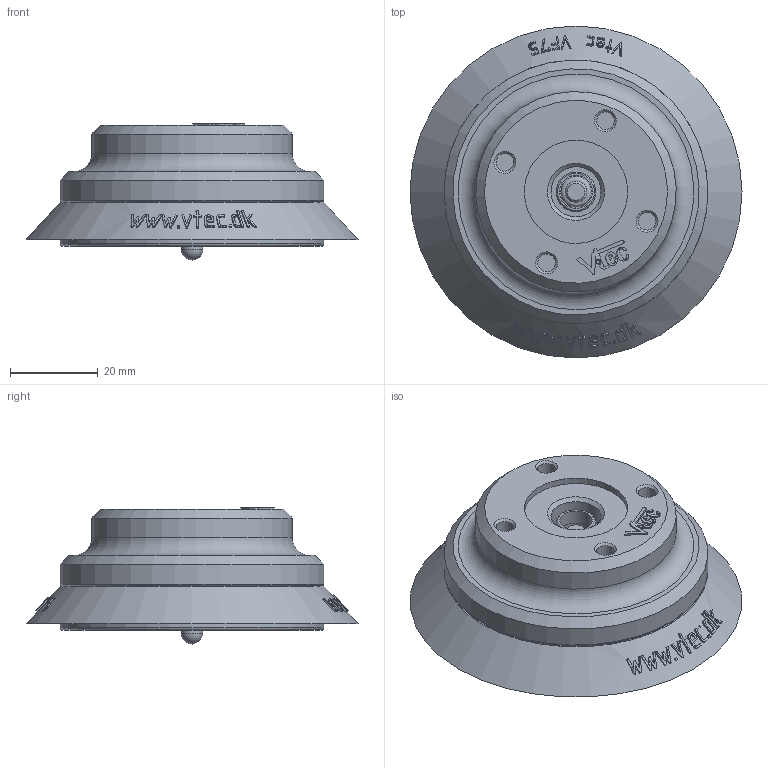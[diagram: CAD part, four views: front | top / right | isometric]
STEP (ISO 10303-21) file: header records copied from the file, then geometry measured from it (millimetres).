
FILE_DESCRIPTION( ( 'Unknown' ), '1' );
FILE_NAME( 'C:/Documents and Settings/owner/官帕 拳搁/MISUMI/PAD/VF/VF75-N-14FA-BV.stp', 'Unknown', ( 'Unknown' ), ( 'Unknown' ), 'XStep 1.0', 'Unknown', ' ' );
FILE_SCHEMA( ( 'automotive_design' ) );
Length unit declared in the file: millimetre
Products named in the file (5): Assem1; 1_0; 2_0; VF75 BV
Bounding box: 75.5 x 75.5 x 30.95 mm (x, y, z)
Volume: 101577 mm3; surface area: 47485.9 mm2
Topology: 8 solids, 8 shells, 748 faces, 1888 edges, 1252 vertices
Faces by surface type: plane 364, cylinder 160, bspline 122, cone 72, extrusion 18, torus 10, sphere 2
Full cylindrical faces by diameter (mm): 0.791 x2, 4 x16, 4.9 x2, 5 x2, 6 x8, 7.5 x2, 9 x2, 10.5 x2, 11 x2, 11.4 x2, 15 x4, 23.5 x2, 25 x2, 45.6 x2, 55 x4, 60 x2
Entity records: 16081 total; most frequent: CARTESIAN_POINT 7435, ORIENTED_EDGE 1760, DIRECTION 1530, EDGE_CURVE 880, AXIS2_PLACEMENT_3D 621, VERTEX_POINT 610, EDGE_LOOP 482, FACE_OUTER_BOUND 407
